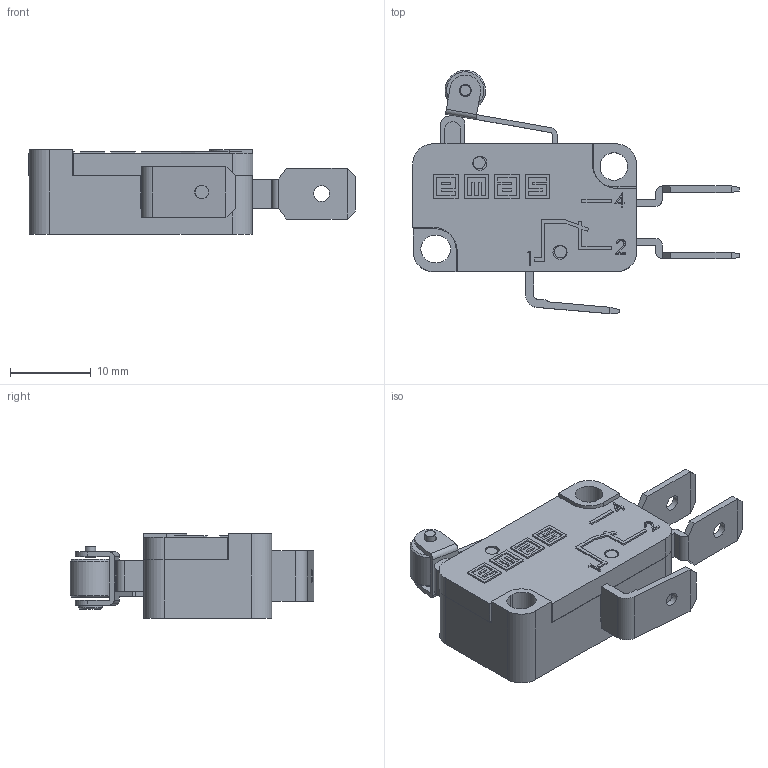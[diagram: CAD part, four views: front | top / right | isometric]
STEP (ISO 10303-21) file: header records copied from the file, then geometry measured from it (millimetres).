
FILE_DESCRIPTION((''),'2; 1');
FILE_NAME('','2026-03-27T16:20:18',(''),(''),'CST STEP Exporter V1.0','Unknown','');
FILE_SCHEMA(('CONFIG_CONTROL_DESIGN'));
Length unit declared in the file: metre
Assembly tree (11 placements, depth 2):
  (unnamed)
    (unnamed)
    (unnamed)
    (unnamed)
    (unnamed)
    (unnamed)
    (unnamed)
    (unnamed)
    (unnamed)
    (unnamed)
    (unnamed)
    (unnamed)
Bounding box: 40.35 x 30.09 x 10.4 mm (x, y, z)
Surface area: 7366.6 mm2 (no closed solid volume)
Topology: 0 solids, 11 shells, 302 faces, 1082 edges, 802 vertices
Faces by surface type: plane 250, cylinder 43, extrusion 6, cone 3
Full cylindrical faces by diameter (mm): 1.3 x1, 1.5 x3, 1.7 x1, 1.75 x2, 1.95 x2, 3 x1, 3.4 x1, 5 x1
Entity records: 14133 total; most frequent: CARTESIAN_POINT 2345, DIRECTION 1814, ORIENTED_EDGE 1784, EDGE_CURVE 1063, VECTOR 868, LINE 862, VERTEX_POINT 798, AXIS2_PLACEMENT_3D 473
